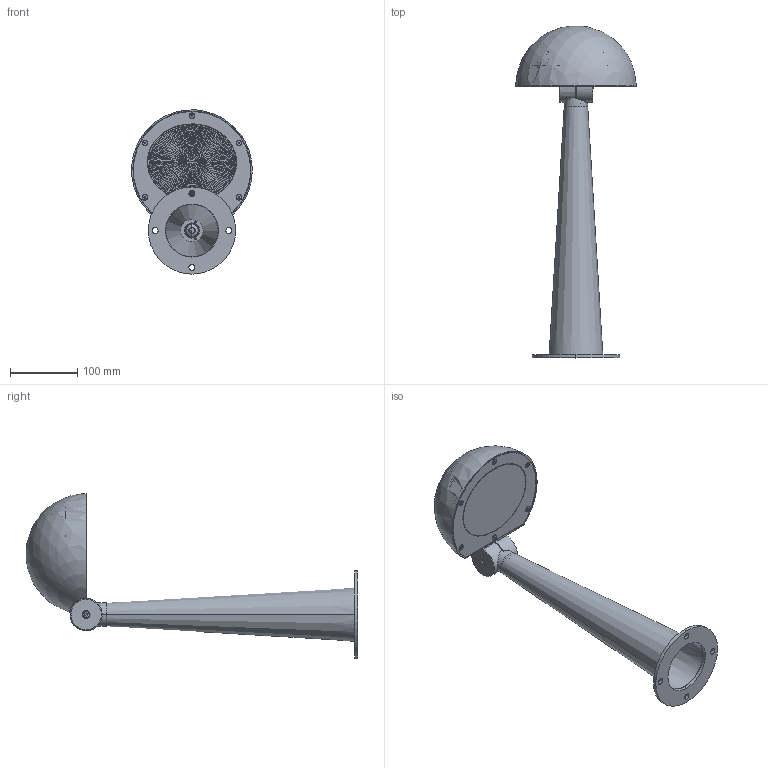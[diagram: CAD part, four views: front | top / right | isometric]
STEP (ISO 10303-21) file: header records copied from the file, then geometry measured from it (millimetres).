
FILE_DESCRIPTION((''),'2;1');
FILE_NAME('9AY-DANTOU_ASM','2024-09-19T',('Administrator'),(''),'CREO PARAMETRIC BY PTC INC, 2014500','CREO PARAMETRIC BY PTC INC, 2014500','');
FILE_SCHEMA(('CONFIG_CONTROL_DESIGN'));
Products named in the file (26): 9AY-MG; 9AY-DENGTI; 9AYTOUGUANGZHAO; ___B_W_O1_ANY-34127_ASM; SOCKET_HEAD_CAP_SCREW_ISO_ISO_4; ___B_W_O____B_W____X__________A_ASM; M4; SANREBAN; ____1-17486; ____-____2-81358; 9AV-9AY___B_W_O______W___-30115_ASM; 9AY-DIBAN; XINZHUANZHOU; 9AV-CHANJIEPIAN; PG9; 9AV-9AY-DANTOU_ASM; XINLJB_FGQ; 9AY-FGQ; XINLJB-01; M2-5-16; 20W-QUDONG; 9AYTOUGUANGZHAO-TOOLING; FENGWOWANG; XINQUDONG; GUDINGBAN; 9AY-DANTOU_ASM
Assembly tree (33 placements, depth 4):
  9AY-DANTOU_ASM
    ___B_W_O1_ANY-34127_ASM
      9AY-MG
      9AY-DENGTI
      9AYTOUGUANGZHAO
    ___B_W_O____B_W____X__________A_ASM
      SOCKET_HEAD_CAP_SCREW_ISO_ISO_4
    M4  x6
    SANREBAN
    9AV-9AY-DANTOU_ASM
      9AV-9AY___B_W_O______W___-30115_ASM
        ____1-17486
        ____-____2-81358
      9AY-DIBAN
      XINZHUANZHOU
      9AV-CHANJIEPIAN
      PG9
    XINLJB_FGQ
    9AY-FGQ
    XINLJB-01
    M2-5-16  x4
    20W-QUDONG
    9AYTOUGUANGZHAO-TOOLING
    FENGWOWANG
    XINQUDONG
    GUDINGBAN
Bounding box: 179.81 x 494.46 x 244.87 mm (x, y, z)
Volume: 816944.6 mm3; surface area: 578093.9 mm2
Topology: 29 solids, 29 shells, 2456 faces, 6130 edges, 3893 vertices
Faces by surface type: plane 1266, cylinder 439, cone 229, extrusion 213, bspline 211, torus 81, sphere 17
Entity records: 120955 total; most frequent: CARTESIAN_POINT 67124, ORIENTED_EDGE 11402, DIRECTION 10169, EDGE_CURVE 5701, VERTEX_POINT 3648, VECTOR 3601, LINE 3388, AXIS2_PLACEMENT_3D 3284
